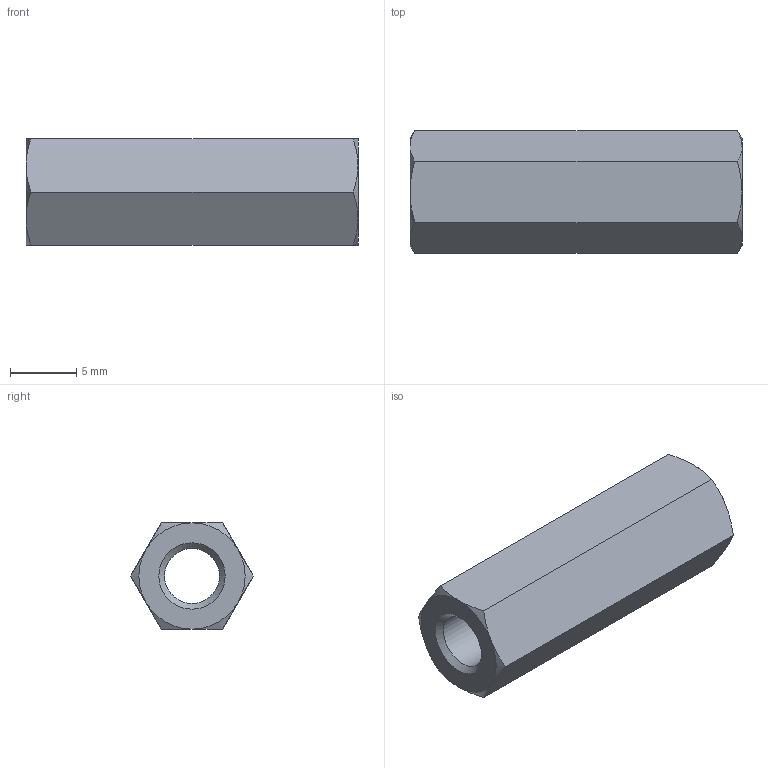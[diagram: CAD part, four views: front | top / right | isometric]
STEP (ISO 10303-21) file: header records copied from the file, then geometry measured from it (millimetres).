
FILE_DESCRIPTION( ( 'STEP AP203' ), '1' );
FILE_NAME( 'C:/Temp/Ganter_Step_05_03_2020/data/3_2/gn6220/gn6220_ni/Stainless Steel-Spacer GN 6220-NI-M5-25-A.stp', '2020-03-13T05:43:00', ( 'License CC BY-ND 4.0' ), ( 'CADENAS' ), ' ', 'PARTsolutions', ' ' );
FILE_SCHEMA( ( 'CONFIG_CONTROL_DESIGN' ) );
Length unit declared in the file: millimetre
Products named in the file (1): _Stainless Steel-Spacer GN 6220-NI-M5-25-A
Bounding box: 25 x 9.24 x 8 mm (x, y, z)
Volume: 1046.4 mm3; surface area: 1090.2 mm2
Topology: 1 solids, 1 shells, 23 faces, 49 edges, 28 vertices
Faces by surface type: cone 14, plane 8, cylinder 1
Full cylindrical faces by diameter (mm): 4.134 x1
Entity records: 696 total; most frequent: CARTESIAN_POINT 202, ORIENTED_EDGE 92, DIRECTION 86, EDGE_CURVE 46, AXIS2_PLACEMENT_3D 40, EDGE_LOOP 28, VERTEX_POINT 28, FACE_OUTER_BOUND 24
